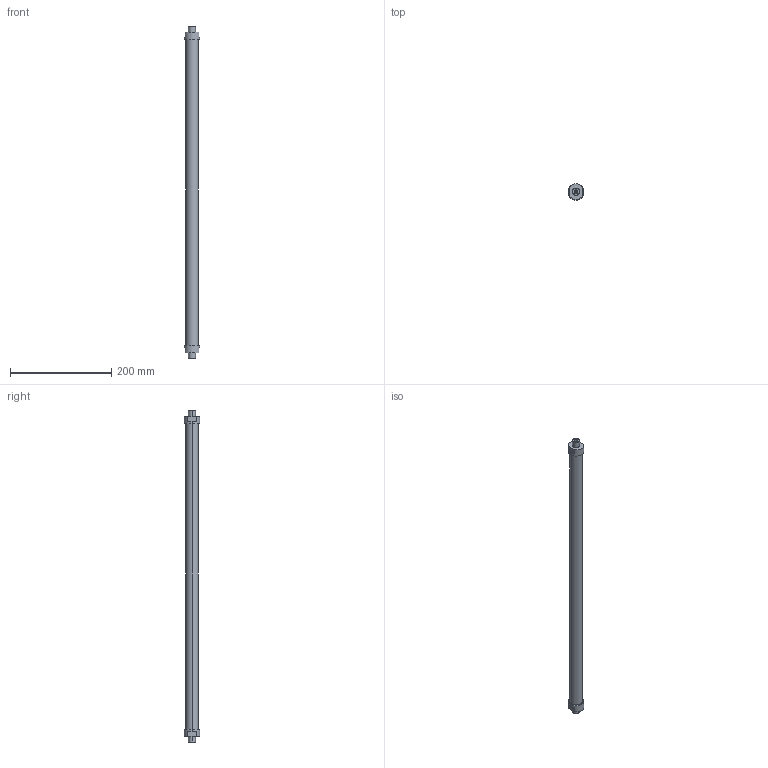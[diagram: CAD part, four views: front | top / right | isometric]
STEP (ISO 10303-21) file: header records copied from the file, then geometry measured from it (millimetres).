
FILE_DESCRIPTION(('STEP AP214'),'1');
FILE_NAME('ETT-R050G644.stp','2015-02-02T13:04:40',(' '),(' '),'Spatial InterOp 3D',' ',' ');
FILE_SCHEMA(('automotive_design'));
Length unit declared in the file: metre
Products named in the file (3): 1; 2; 3
Bounding box: 31 x 31 x 656 mm (x, y, z)
Volume: 302824.5 mm3; surface area: 66147.5 mm2
Topology: 1 solids, 7 shells, 32 faces, 86 edges, 66 vertices
Faces by surface type: cylinder 16, plane 16
Entity records: 1375 total; most frequent: DIRECTION 206, CARTESIAN_POINT 187, ORIENTED_EDGE 148, EDGE_CURVE 86, AXIS2_PLACEMENT_3D 85, VERTEX_POINT 66, CIRCLE 50, EDGE_LOOP 40
